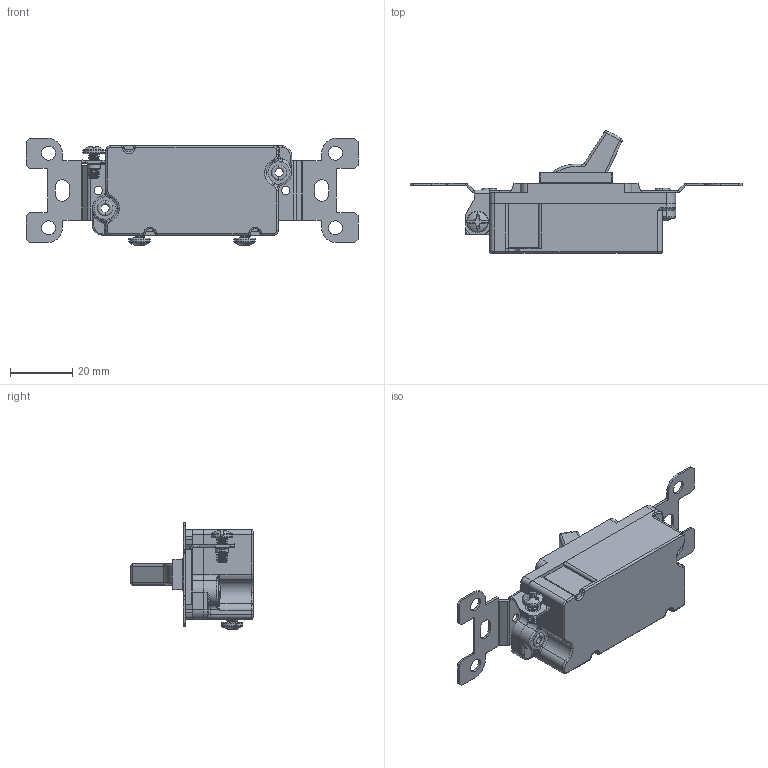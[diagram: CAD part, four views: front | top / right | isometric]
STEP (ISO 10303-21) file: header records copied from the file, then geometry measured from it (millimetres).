
FILE_DESCRIPTION (( 'STEP AP203' ), '1' );
FILE_NAME ('Switch_Assembly.STEP', '2012-09-28T19:43:20', ( 'BBD' ), ( 'BBD' ), 'SwSTEP 2.0', 'SolidWorks 2012', '' );
FILE_SCHEMA (( 'CONFIG_CONTROL_DESIGN' ));
Length unit declared in the file: inch
Products named in the file (9): Switch_Assembly; Tab_Connect_Insulator; Rolled_Rivet; Screw_PHHPH-CROSS_6-32_L5-16_Brass_91249A145; Tab_Connect; Back_Insulator; Top_Plate; Toggle_Switch; Top_Insulator
Assembly tree (12 placements, depth 2):
  Switch_Assembly
    Top_Insulator
    Toggle_Switch
    Top_Plate
    Back_Insulator
    Tab_Connect  x2
    Screw_PHHPH-CROSS_6-32_L5-16_Brass_91249A145  x3
    Rolled_Rivet  x2
    Tab_Connect_Insulator
Bounding box: 106.68 x 39.25 x 34.5 mm (x, y, z)
Volume: 37221.5 mm3; surface area: 20403.3 mm2
Topology: 12 solids, 12 shells, 832 faces, 2155 edges, 1341 vertices
Faces by surface type: cylinder 349, plane 309, torus 95, cone 30, bspline 29, sphere 20
Entity records: 22115 total; most frequent: CARTESIAN_POINT 6246, DIRECTION 3155, ORIENTED_EDGE 3130, EDGE_CURVE 1565, AXIS2_PLACEMENT_3D 1171, VERTEX_POINT 963, VECTOR 813, LINE 813
